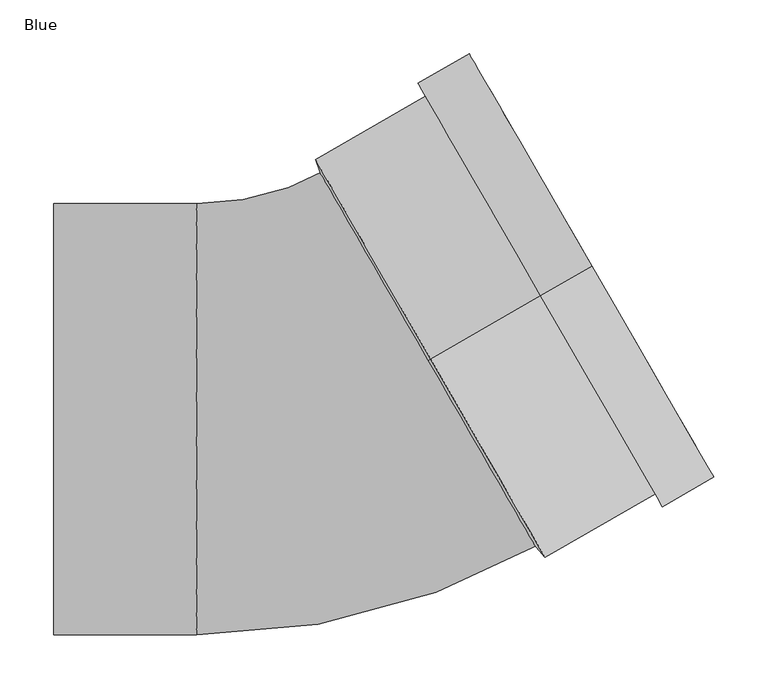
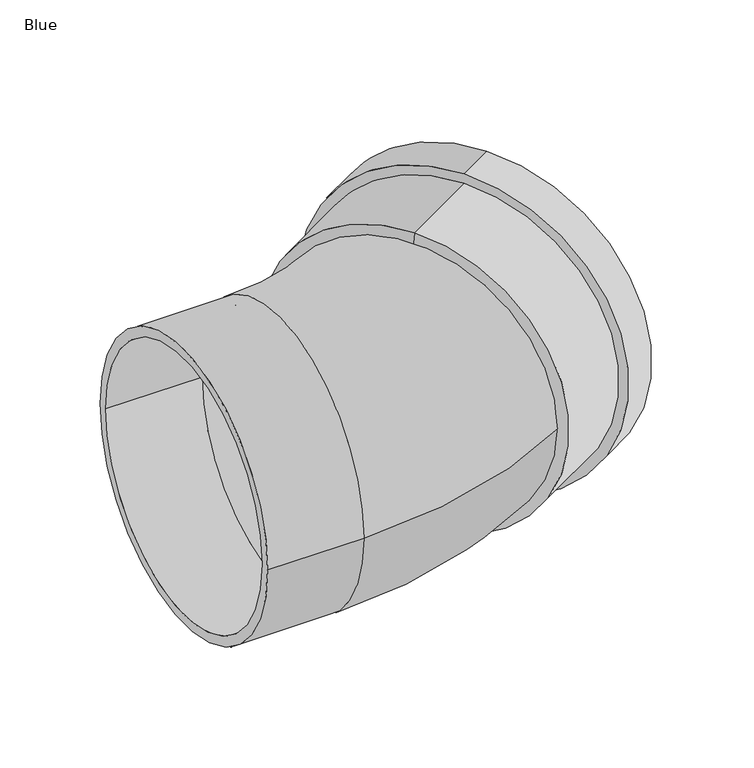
"""IFC4 building model written with IfcOpenShell, lengths in millimetres: pipe fitting geometry, AWADUKT PP SN10 Bend : Blue."""

from ifc_helpers import new_model, si_unit, point, frame, origin, place, context, project, spatial, polyline, circle_curve, ellipse_curve, trimmed, source, transform, mapped, element, save
from ifc_brep_helpers import plane_surface, cylinder_surface, revolved_surface, advanced_brep


def blue_1fd363ef(model_context):
    return source(origin(), model_context, "Body", "AdvancedBrep", [
        advanced_brep(
        [(198.7528302, 114.75, 213.7), (198.7528302, 114.75, -213.7), (96.5791658, 55.7600073, -213.7), (96.5791658, 55.7600073, 213.7), (246.2110223, 142.15, 227.4), (246.2110223, 142.15, -227.4), (198.7528302, 114.75, -227.4), (198.7528302, 114.75, 227.4), (234.3464743, 135.3, 200.0), (234.3464743, 135.3, -200.0), (246.2110223, 142.15, -200.0), (246.2110223, 142.15, 200.0), (210.6173782, 121.6, 213.7), (210.6173782, 121.6, -213.7), (234.3464743, 135.3, -213.7), (234.3464743, 135.3, 213.7), (106.5347036, 61.5078398, 200.0), (106.5347036, 61.5078398, -200.0), (210.6173782, 121.6, -200.0), (210.6173782, 121.6, 200.0), (104.4426637, 60.3, 186.3), (104.4426637, 60.3, -186.3), (92.3950859, 53.3443277, 186.3), (92.3950859, 53.3443277, -186.3)],
        [
            (0, 1, circle_curve(frame((198.7528302, 114.75, 0.0), z_axis=(-0.866025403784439, -0.49999999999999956, 0.0), x_axis=(0.0, 0.0, -1.0)), 213.7)),
            (1, 2),
            (2, 3, circle_curve(frame((96.5791658, 55.7600073, 0.0), z_axis=(0.866025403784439, 0.49999999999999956, 0.0), x_axis=(0.0, 0.0, -1.0)), 213.7)),
            (3, 0),
            (4, 5, circle_curve(frame((246.2110223, 142.15, 0.0), z_axis=(-0.866025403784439, -0.49999999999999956, 0.0), x_axis=(0.0, 0.0, -1.0)), 227.4)),
            (5, 6),
            (6, 7, circle_curve(frame((198.7528302, 114.75, 0.0), z_axis=(0.866025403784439, 0.49999999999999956, 0.0), x_axis=(0.0, 0.0, -1.0)), 227.4)),
            (7, 4),
            (8, 9, circle_curve(frame((234.3464743, 135.3, 0.0), z_axis=(-0.866025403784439, -0.49999999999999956, 0.0), x_axis=(0.0, 0.0, -1.0)), 200.0)),
            (9, 10),
            (10, 11, circle_curve(frame((246.2110223, 142.15, 0.0), z_axis=(0.866025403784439, 0.49999999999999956, 0.0), x_axis=(0.0, 0.0, -1.0)), 200.0)),
            (11, 8),
            (12, 13, circle_curve(frame((210.6173782, 121.6, 0.0), z_axis=(-0.866025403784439, -0.49999999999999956, 0.0), x_axis=(0.0, 0.0, -1.0)), 213.7)),
            (13, 14),
            (14, 15, circle_curve(frame((234.3464743, 135.3, 0.0), z_axis=(0.866025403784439, 0.49999999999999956, 0.0), x_axis=(0.0, 0.0, -1.0)), 213.7)),
            (15, 12),
            (16, 17, circle_curve(frame((106.5347036, 61.5078398, 0.0), z_axis=(-0.866025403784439, -0.49999999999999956, 0.0), x_axis=(0.0, 0.0, -1.0)), 200.0)),
            (17, 18),
            (18, 19, circle_curve(frame((210.6173782, 121.6, 0.0), z_axis=(0.866025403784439, 0.49999999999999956, 0.0), x_axis=(0.0, 0.0, -1.0)), 200.0)),
            (19, 16),
            (20, 21, circle_curve(frame((104.4426637, 60.3, 0.0), z_axis=(-0.866025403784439, -0.49999999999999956, 0.0), x_axis=(0.0, 0.0, -1.0)), 186.3)),
            (21, 17),
            (16, 20),
            (22, 23, circle_curve(frame((92.3950859, 53.3443277, 0.0), z_axis=(-0.866025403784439, -0.49999999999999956, 0.0), x_axis=(0.0, 0.0, -1.0)), 186.3)),
            (23, 21),
            (20, 22),
            (2, 23),
            (22, 3),
            (1, 0, circle_curve(frame((198.7528302, 114.75, 0.0), z_axis=(-0.866025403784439, -0.49999999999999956, 0.0), x_axis=(0.0, 0.0, 1.0)), 213.7)),
            (3, 2, circle_curve(frame((96.5791658, 55.7600073, 0.0), z_axis=(0.866025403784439, 0.49999999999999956, 0.0), x_axis=(0.0, 0.0, 1.0)), 213.7)),
            (6, 7, circle_curve(frame((198.7528302, 114.75, 0.0), z_axis=(-0.866025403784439, -0.49999999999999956, 0.0), x_axis=(0.0, 0.0, 1.0)), 227.4)),
            (5, 4, circle_curve(frame((246.2110223, 142.15, 0.0), z_axis=(-0.866025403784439, -0.49999999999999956, 0.0), x_axis=(0.0, 0.0, 1.0)), 227.4)),
            (10, 11, circle_curve(frame((246.2110223, 142.15, 0.0), z_axis=(-0.866025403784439, -0.49999999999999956, 0.0), x_axis=(0.0, 0.0, 1.0)), 200.0)),
            (9, 8, circle_curve(frame((234.3464743, 135.3, 0.0), z_axis=(-0.866025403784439, -0.49999999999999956, 0.0), x_axis=(0.0, 0.0, 1.0)), 200.0)),
            (14, 15, circle_curve(frame((234.3464743, 135.3, 0.0), z_axis=(-0.866025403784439, -0.49999999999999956, 0.0), x_axis=(0.0, 0.0, 1.0)), 213.7)),
            (13, 12, circle_curve(frame((210.6173782, 121.6, 0.0), z_axis=(-0.866025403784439, -0.49999999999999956, 0.0), x_axis=(0.0, 0.0, 1.0)), 213.7)),
            (18, 19, circle_curve(frame((210.6173782, 121.6, 0.0), z_axis=(-0.866025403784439, -0.49999999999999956, 0.0), x_axis=(0.0, 0.0, 1.0)), 200.0)),
            (17, 16, circle_curve(frame((106.5347036, 61.5078398, 0.0), z_axis=(-0.866025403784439, -0.49999999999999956, 0.0), x_axis=(0.0, 0.0, 1.0)), 200.0)),
            (21, 20, circle_curve(frame((104.4426637, 60.3, 0.0), z_axis=(-0.866025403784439, -0.49999999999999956, 0.0), x_axis=(0.0, 0.0, 1.0)), 186.3)),
            (23, 22, circle_curve(frame((92.3950859, 53.3443277, 0.0), z_axis=(-0.866025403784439, -0.49999999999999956, 0.0), x_axis=(0.0, 0.0, 1.0)), 186.3)),
        ],
        [
            cylinder_surface(frame((104.4426637, 60.3, 0.0), z_axis=(0.866025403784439, 0.49999999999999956, 0.0), x_axis=(0.0, 0.0, -1.0)), 213.7),
            cylinder_surface(frame((104.4426637, 60.3, 0.0), z_axis=(0.866025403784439, 0.49999999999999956, 0.0), x_axis=(0.0, 0.0, -1.0)), 227.4),
            revolved_surface(polyline([(246.21102229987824, 142.15000000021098, -200.0), (234.34647429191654, 135.30000001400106, -200.0)]), (104.4426637, 60.3, 0.0), (0.866025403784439, 0.49999999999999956, 0.0)),
            revolved_surface(polyline([(234.34647429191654, 135.30000001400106, -213.7), (210.6173782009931, 121.59999999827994, -213.7)]), (104.4426637, 60.3, 0.0), (0.866025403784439, 0.49999999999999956, 0.0)),
            revolved_surface(polyline([(210.6173782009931, 121.59999999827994, -200.0), (106.53470360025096, 61.507839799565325, -200.0)]), (104.4426637, 60.3, 0.0), (0.866025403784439, 0.49999999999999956, 0.0)),
            revolved_surface(polyline([(106.5347036, 61.5078398, -200.0), (104.4426637, 60.3, -186.3)]), (104.4426637, 60.3, 0.0), (0.866025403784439, 0.49999999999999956, 0.0)),
            revolved_surface(polyline([(104.4426637, 60.3, -186.3), (92.39508589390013, 53.34432771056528, -186.3)]), (104.4426637, 60.3, 0.0), (0.866025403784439, 0.49999999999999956, 0.0)),
            revolved_surface(polyline([(92.3950859, 53.3443277, -186.3), (96.5791658, 55.7600073, -213.7)]), (104.4426637, 60.3, 0.0), (0.866025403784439, 0.49999999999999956, 0.0)),
            cylinder_surface(frame((104.4426637, 60.3, 0.0), z_axis=(0.866025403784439, 0.49999999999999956, 0.0), x_axis=(0.0, 0.0, 1.0)), 213.7),
            plane_surface(frame((198.7528302, 114.75, 0.0), z_axis=(-0.866025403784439, -0.49999999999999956, 0.0), x_axis=(0.0, 0.0, 1.0))),
            cylinder_surface(frame((104.4426637, 60.3, 0.0), z_axis=(0.866025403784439, 0.49999999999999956, 0.0), x_axis=(0.0, 0.0, 1.0)), 227.4),
            plane_surface(frame((246.2110223, 142.15, 0.0), z_axis=(0.866025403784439, 0.49999999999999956, 0.0), x_axis=(0.0, 0.0, 1.0))),
            revolved_surface(polyline([(246.21102229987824, 142.15000000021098, 200.0), (234.34647429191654, 135.30000001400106, 200.0)]), (104.4426637, 60.3, 0.0), (0.866025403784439, 0.49999999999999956, 0.0)),
            plane_surface(frame((234.3464743, 135.3, 0.0), z_axis=(-0.866025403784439, -0.49999999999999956, 0.0), x_axis=(0.0, 0.0, 1.0))),
            revolved_surface(polyline([(234.34647429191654, 135.30000001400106, 213.7), (210.6173782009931, 121.59999999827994, 213.7)]), (104.4426637, 60.3, 0.0), (0.866025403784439, 0.49999999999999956, 0.0)),
            plane_surface(frame((210.6173782, 121.6, 0.0), z_axis=(0.866025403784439, 0.49999999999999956, 0.0), x_axis=(0.0, 0.0, 1.0))),
            revolved_surface(polyline([(210.6173782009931, 121.59999999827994, 200.0), (106.53470360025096, 61.507839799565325, 200.0)]), (104.4426637, 60.3, 0.0), (0.866025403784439, 0.49999999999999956, 0.0)),
            revolved_surface(polyline([(106.5347036, 61.5078398, 200.0), (104.4426637, 60.3, 186.3)]), (104.4426637, 60.3, 0.0), (0.866025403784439, 0.49999999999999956, 0.0)),
            revolved_surface(polyline([(104.4426637, 60.3, 186.3), (92.39508589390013, 53.34432771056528, 186.3)]), (104.4426637, 60.3, 0.0), (0.866025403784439, 0.49999999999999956, 0.0)),
            revolved_surface(polyline([(92.3950859, 53.3443277, 186.3), (96.5791658, 55.7600073, 213.7)]), (104.4426637, 60.3, 0.0), (0.866025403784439, 0.49999999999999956, 0.0)),
        ],
        [
            (0, [[1, 2, 3, 4]]),
            (1, [[5, 6, 7, 8]]),
            (2, [[9, 10, 11, 12]]),
            (3, [[13, 14, 15, 16]]),
            (4, [[17, 18, 19, 20]]),
            (5, [[21, 22, -17, 23]]),
            (6, [[24, 25, -21, 26]]),
            (7, [[-3, 27, -24, 28]]),
            (8, [[29, -4, 30, -2]]),
            (9, [[31, -7], [-29, -1]]),
            (10, [[32, -8, -31, -6]]),
            (11, [[-32, -5], [33, -11]]),
            (12, [[34, -12, -33, -10]]),
            (13, [[35, -15], [-34, -9]]),
            (14, [[36, -16, -35, -14]]),
            (15, [[-36, -13], [37, -19]]),
            (16, [[38, -20, -37, -18]]),
            (17, [[39, -23, -38, -22]]),
            (18, [[40, -26, -39, -25]]),
            (19, [[-30, -28, -40, -27]]),
        ],
    ),
        advanced_brep(
        [(-253.0, -200.0, 0.0), (-253.0, 200.0, 0.0), (-253.0, -186.3, 0.0), (-253.0, 186.3, 0.0), (204.4426637, -112.9050808, 0.0), (4.4426637, 233.5050808, 0.0), (197.5926637, -101.0405327, 0.0), (11.2926637, 221.6405327, 0.0), (-120.6, -186.3, 0.0), (-120.6, 186.3, 0.0), (-120.6, -200.0, 0.0), (-120.6, 200.0, 0.0)],
        [
            (0, 1, circle_curve(frame((-253.0, 0.0, 0.0), z_axis=(-1.0, 0.0, 0.0), x_axis=(0.0, 1.0, 0.0)), 200.0)),
            (1, 0, circle_curve(frame((-253.0, 0.0, 0.0), z_axis=(-1.0, 0.0, 0.0), x_axis=(0.0, 1.0, 0.0)), 200.0)),
            (2, 3, circle_curve(frame((-253.0, 0.0, 0.0), z_axis=(1.0, 0.0, 0.0), x_axis=(0.0, 1.0, 0.0)), 186.3)),
            (3, 2, circle_curve(frame((-253.0, 0.0, 0.0), z_axis=(1.0, 0.0, 0.0), x_axis=(0.0, 1.0, 0.0)), 186.3)),
            (4, 5, circle_curve(frame((104.4426637, 60.3, 0.0), z_axis=(0.8660254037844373, 0.5000000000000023, 0.0), x_axis=(-0.5000000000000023, 0.8660254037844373, 0.0)), 200.0)),
            (5, 4, circle_curve(frame((104.4426637, 60.3, 0.0), z_axis=(0.8660254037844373, 0.5000000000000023, 0.0), x_axis=(-0.5000000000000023, 0.8660254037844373, 0.0)), 200.0)),
            (6, 7, circle_curve(frame((104.4426637, 60.3, 0.0), z_axis=(-0.8660254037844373, -0.5000000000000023, 0.0), x_axis=(-0.5000000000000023, 0.8660254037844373, 0.0)), 186.3)),
            (7, 6, circle_curve(frame((104.4426637, 60.3, 0.0), z_axis=(-0.8660254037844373, -0.5000000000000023, 0.0), x_axis=(-0.5000000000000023, 0.8660254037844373, 0.0)), 186.3)),
            (2, 8),
            (8, 9, circle_curve(frame((-120.6, 0.0, 0.0), z_axis=(1.0, 0.0, 0.0), x_axis=(0.0, 1.0, 0.0)), 186.3)),
            (9, 3),
            (9, 8, circle_curve(frame((-120.6, 0.0, 0.0), z_axis=(1.0, 0.0, 0.0), x_axis=(0.0, 1.0, 0.0)), 186.3)),
            (0, 10),
            (10, 11, circle_curve(frame((-120.6, 0.0, 0.0), z_axis=(-1.0, 0.0, 0.0), x_axis=(0.0, 1.0, 0.0)), 200.0)),
            (11, 1),
            (11, 10, circle_curve(frame((-120.6, 0.0, 0.0), z_axis=(-1.0, 0.0, 0.0), x_axis=(0.0, 1.0, 0.0)), 200.0)),
            (7, 9, circle_curve(frame((-120.6, 450.0853274, 0.0), z_axis=(0.0, 0.0, -1.0), x_axis=(0.0, -1.0, 0.0)), 263.7853274)),
            (8, 6, circle_curve(frame((-120.6, 450.0853274, 0.0), z_axis=(0.0, 0.0, 1.0), x_axis=(0.0, -1.0, 0.0)), 636.3853274)),
            (5, 11, circle_curve(frame((-120.6, 450.0853274, 0.0), z_axis=(0.0, 0.0, -1.0), x_axis=(0.0, -1.0, 0.0)), 250.0853274)),
            (10, 4, circle_curve(frame((-120.6, 450.0853274, 0.0), z_axis=(0.0, 0.0, 1.0), x_axis=(0.0, -1.0, 0.0)), 650.0853274)),
        ],
        [
            plane_surface(frame((-253.0, 0.0, 0.0), z_axis=(-1.0, 0.0, 0.0), x_axis=(0.0, 0.0, 1.0))),
            plane_surface(frame((104.4426637, 60.3, 0.0), z_axis=(0.8660254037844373, 0.5000000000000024, 0.0), x_axis=(0.0, 0.0, 1.0))),
            revolved_surface(polyline([(-120.6, 186.3, 0.0), (-253.0, 186.3, 0.0)]), (-253.0, 0.0, 0.0), (1.0, 0.0, 0.0)),
            cylinder_surface(frame((-253.0, 0.0, 0.0), z_axis=(-1.0, 0.0, 0.0), x_axis=(0.0, 1.0, 0.0)), 200.0),
            revolved_surface(trimmed(ellipse_curve(frame((-120.6, 0.0, 0.0), z_axis=(1.0, 0.0, 0.0), x_axis=(0.0, 1.0, 0.0)), 186.3, 186.3), [point((-120.6, -186.3, 0.0))], [point((-120.6, 186.3, 0.0))], True, "CARTESIAN"), (-120.6, 450.0853274, 0.0), (0.0, 0.0, 1.0)),
            revolved_surface(trimmed(ellipse_curve(frame((-120.6, 0.0, 0.0), z_axis=(1.0, 0.0, 0.0), x_axis=(0.0, 1.0, 0.0)), 186.3, 186.3), [point((-120.6, 186.3, 0.0))], [point((-120.6, -186.3, 0.0))], True, "CARTESIAN"), (-120.6, 450.0853274, 0.0), (0.0, 0.0, 1.0)),
            revolved_surface(trimmed(ellipse_curve(frame((-120.6, 0.0, 0.0), z_axis=(-1.0, 0.0, 0.0), x_axis=(0.0, 1.0, 0.0)), 200.0, 200.0), [point((-120.6, -200.0, 0.0))], [point((-120.6, 200.0, 0.0))], True, "CARTESIAN"), (-120.6, 450.0853274, 0.0), (0.0, 0.0, 1.0)),
            revolved_surface(trimmed(ellipse_curve(frame((-120.6, 0.0, 0.0), z_axis=(-1.0, 0.0, 0.0), x_axis=(0.0, 1.0, 0.0)), 200.0, 200.0), [point((-120.6, 200.0, 0.0))], [point((-120.6, -200.0, 0.0))], True, "CARTESIAN"), (-120.6, 450.0853274, 0.0), (0.0, 0.0, 1.0)),
        ],
        [
            (0, [[1, 2], [3, 4]]),
            (1, [[5, 6], [7, 8]]),
            (2, [[-3, 9, 10, 11]]),
            (2, [[-4, -11, 12, -9]]),
            (3, [[-1, 13, 14, 15]]),
            (3, [[-2, -15, 16, -13]]),
            (4, [[17, -10, 18, -8]]),
            (5, [[-18, -12, -17, -7]]),
            (6, [[19, -14, 20, -6]]),
            (7, [[-20, -16, -19, -5]]),
        ],
    ),
    ])


if __name__ == "__main__":
    model = new_model("IFC4")
    model_context = context("Model", 3, world=origin())
    ifc_project = project(units=[si_unit("LENGTHUNIT", "METRE", prefix="MILLI")], contexts=[model_context])
    site = spatial("IfcSite", under=ifc_project)
    building = spatial("IfcBuilding", under=site)
    placement = place(None, origin())
    blue_shape = blue_1fd363ef(model_context)
    element("IfcPipeFitting", 1, ObjectType="AWADUKT PP SN10 Bend : Blue", at=placement, inside=building, context=model_context, shape_type="MappedRepresentation", body=[
        mapped(blue_shape, transform((0.0, 0.0, 0.0), x_axis=(1.0, 0.0, 0.0), y_axis=(0.0, 1.0, 0.0), z_axis=(0.0, 0.0, 1.0))),
    ])
    save(model, "model.ifc")
